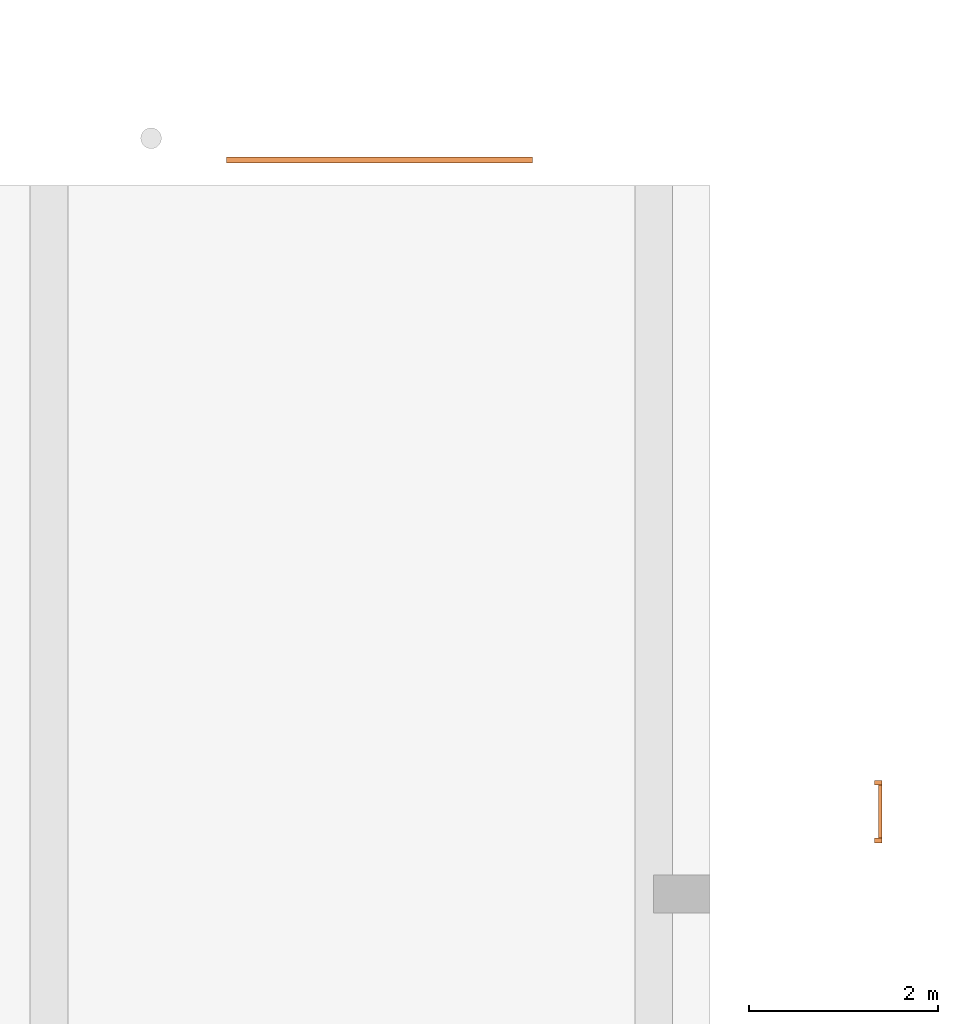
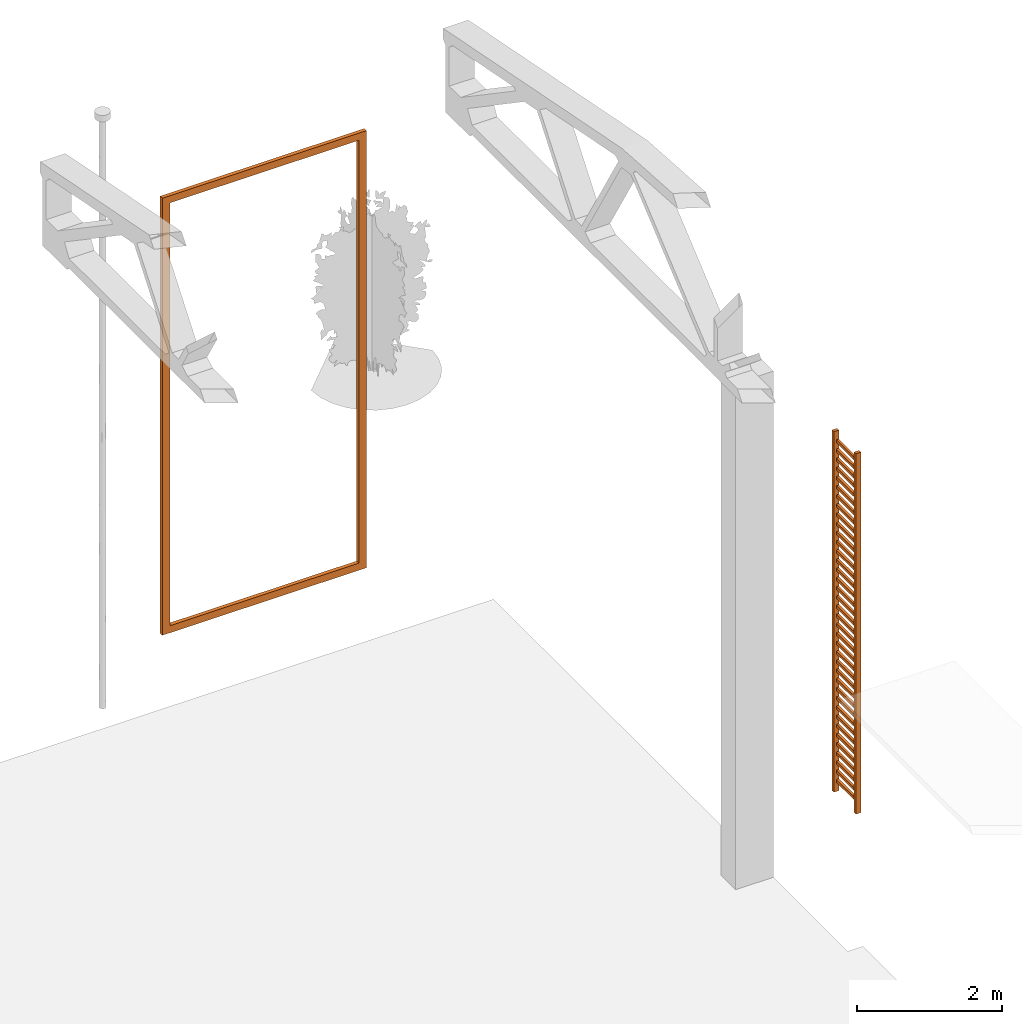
# One storey, part 14 of 14: 2 proxies.
"""IFC2X3 building model written with IfcOpenShell, lengths in millimetres."""

import ifcopenshell
import ifcopenshell.guid

model = None  # the IFC model being written
_history = None  # IfcOwnerHistory: only IFC2X3 demands one
_inside = {}  # id of a spatial element -> (the spatial element, [elements in it])
_under = {}  # id of a project, library or spatial element -> (it, [spatial elements below it])
_declared = {}  # id of a project -> (the project, [libraries it declares])
_typed = {}  # id of a type object -> (the type object, [elements of that type])
_made_of = {}  # id of a material, layer set ... -> (it, [elements and type objects made of it])


def new_model(schema):
    """Start an empty IFC model of exactly this schema.

    Asked for "IFC4X3", IfcOpenShell would pick the latest addendum, in which some entities
    have other attributes; the version numbers below select the first issue.
    IFC2X3 requires an IfcOwnerHistory on every rooted entity: one is made here for all.
    """
    global model, _history
    if schema == "IFC4X3":
        model = ifcopenshell.file(schema_version=(4, 3, 0, 0))
    else:
        model = ifcopenshell.file(schema=schema)
    _inside.clear()
    _under.clear()
    _declared.clear()
    _typed.clear()
    _made_of.clear()
    _history = None
    if model.schema == "IFC2X3":
        org = make("IfcOrganization", Name="unknown")
        user = make(
            "IfcPersonAndOrganization",
            ThePerson=make("IfcPerson", FamilyName="unknown"),
            TheOrganization=org,
        )
        app = make(
            "IfcApplication",
            ApplicationDeveloper=org,
            Version="unknown",
            ApplicationFullName="unknown",
            ApplicationIdentifier="unknown",
        )
        _history = make(
            "IfcOwnerHistory",
            OwningUser=user,
            OwningApplication=app,
            ChangeAction="ADDED",
            CreationDate=0,
        )
    return model


def make(cls, **values):
    """One entity of the class cls with the attributes given. An attribute that is None is left unset."""
    return model.create_entity(
        cls, **{name: value for name, value in values.items() if value is not None}
    )


def entity(cls, *values):
    """Any entity or typed value of the class cls, its attributes in the order of the schema. None: left unset."""
    e = model.create_entity(cls)
    for i, value in enumerate(values):
        if value is not None:
            e[i] = value
    return e


def rooted(cls, **values):
    """An entity with a GlobalId (a new one), such as an element, a storey or a relation."""
    return make(cls, GlobalId=ifcopenshell.guid.new(), OwnerHistory=_history, **values)


def si_unit(unit_type, name, prefix=None):
    """IfcSIUnit, for example si_unit("LENGTHUNIT", "METRE", prefix="MILLI")."""
    return make("IfcSIUnit", UnitType=unit_type, Prefix=prefix, Name=name)


def converted_unit(unit_type, name, factor, base, dimensions=None, offset=None):
    """IfcConversionBasedUnit, such as the inch: factor (a typed value) times the base unit."""
    return make(
        "IfcConversionBasedUnit"
        if offset is None
        else "IfcConversionBasedUnitWithOffset",
        ConversionOffset=offset,
        Dimensions=None
        if dimensions is None
        else entity("IfcDimensionalExponents", *dimensions),
        UnitType=unit_type,
        Name=name,
        ConversionFactor=make(
            "IfcMeasureWithUnit", ValueComponent=factor, UnitComponent=base
        ),
    )


def derived_unit(unit_type, elements):
    """IfcDerivedUnit: a product of units, each with its exponent."""
    return make(
        "IfcDerivedUnit",
        Elements=[
            make("IfcDerivedUnitElement", Unit=unit, Exponent=power)
            for unit, power in elements
        ],
        UnitType=unit_type,
    )


def assignment(units):
    """IfcUnitAssignment: the units of a project."""
    return None if units is None else make("IfcUnitAssignment", Units=units)


def point(xyz):
    """IfcCartesianPoint."""
    return None if xyz is None else make("IfcCartesianPoint", Coordinates=xyz)


def direction(xyz):
    """IfcDirection."""
    return None if xyz is None else make("IfcDirection", DirectionRatios=xyz)


def frame(location, z_axis=None, x_axis=None):
    """IfcAxis2Placement3D, a coordinate frame: its origin and axes. An axis left out is left unset."""
    return make(
        "IfcAxis2Placement3D",
        Location=point(location),
        Axis=direction(z_axis),
        RefDirection=direction(x_axis),
    )


def frame_2d(location, x_axis=None):
    """IfcAxis2Placement2D, a coordinate frame in the plane: its origin and x axis."""
    return make(
        "IfcAxis2Placement2D", Location=point(location), RefDirection=direction(x_axis)
    )


def origin():
    """The frame at (0, 0, 0) with its axes left unset."""
    return frame((0.0, 0.0, 0.0))


def origin_2d_with_axis():
    """The frame at (0, 0) in the plane with the x axis (1, 0) written out."""
    return frame_2d((0.0, 0.0), x_axis=(1.0, 0.0))


def place(relative_to, where):
    """IfcLocalPlacement: puts the frame where relative to a parent placement (None: the world)."""
    return make(
        "IfcLocalPlacement", PlacementRelTo=relative_to, RelativePlacement=where
    )


def context(
    kind, dimensions, precision=None, world=None, true_north=None, identifier=None
):
    """IfcGeometricRepresentationContext, for example the 3D "Model" context."""
    return make(
        "IfcGeometricRepresentationContext",
        ContextIdentifier=identifier,
        ContextType=kind,
        CoordinateSpaceDimension=dimensions,
        Precision=precision,
        WorldCoordinateSystem=world,
        TrueNorth=true_north,
    )


def subcontext(parent, identifier, kind, view, scale=None):
    """IfcGeometricRepresentationSubContext, for example "Body" below "Model"."""
    return make(
        "IfcGeometricRepresentationSubContext",
        ContextIdentifier=identifier,
        ContextType=kind,
        ParentContext=parent,
        TargetScale=scale,
        TargetView=view,
    )


def project(units=None, contexts=None):
    """IfcProject with its units and contexts."""
    return rooted(
        "IfcProject",
        Name="project",
        RepresentationContexts=contexts,
        UnitsInContext=assignment(units),
    )


def spatial(cls, under=None, at=None, **own):
    """A site, building, storey or space (cls), placed at a placement, below another one or the project."""
    s = rooted(cls, ObjectPlacement=at, **own)
    if under is not None:
        _under.setdefault(under.id(), (under, []))[1].append(s)
    return s


def polyline(points):
    """IfcPolyline through the points."""
    return make("IfcPolyline", Points=[point(p) for p in points])


def profile(cls, at=None, kind="AREA", **sizes):
    """A parametric profile (cls). Its sizes go by their IFC names, for example OverallWidth=200.0."""
    return make(cls, ProfileType=kind, Position=at, **sizes)


def rectangle(**sizes):
    """IfcRectangleProfileDef."""
    return profile("IfcRectangleProfileDef", **sizes)


def outline(outer, holes=None, kind="AREA"):
    """IfcArbitraryClosedProfileDef: a profile drawn as a closed curve; with holes, ...WithVoids."""
    if holes is None:
        return make("IfcArbitraryClosedProfileDef", ProfileType=kind, OuterCurve=outer)
    return make(
        "IfcArbitraryProfileDefWithVoids",
        ProfileType=kind,
        OuterCurve=outer,
        InnerCurves=holes,
    )


def extrude(swept, where, along, depth):
    """IfcExtrudedAreaSolid: the profile swept, set in the frame where, extruded along a direction by depth."""
    return make(
        "IfcExtrudedAreaSolid",
        SweptArea=swept,
        Position=where,
        ExtrudedDirection=direction(along),
        Depth=depth,
    )


def shape(context_of_items, identifier, shape_type, items):
    """IfcShapeRepresentation: the items that make up one representation, for example the "Body"."""
    return make(
        "IfcShapeRepresentation",
        ContextOfItems=context_of_items,
        RepresentationIdentifier=identifier,
        RepresentationType=shape_type,
        Items=items,
    )


def source(mapping_origin, context_of_items, identifier, shape_type, items):
    """IfcRepresentationMap: a shape defined once, which mapped items show again and again."""
    return make(
        "IfcRepresentationMap",
        MappingOrigin=mapping_origin,
        MappedRepresentation=shape(context_of_items, identifier, shape_type, items),
    )


def transform(
    local_origin,
    x_axis=None,
    y_axis=None,
    z_axis=None,
    scale=None,
    scale2=None,
    scale3=None,
    uniform=True,
):
    """IfcCartesianTransformationOperator3D, or its non-uniform kind. x_axis, y_axis, z_axis: its Axis1, 2, 3."""
    if uniform:
        return make(
            "IfcCartesianTransformationOperator3D",
            Axis1=direction(x_axis),
            Axis2=direction(y_axis),
            LocalOrigin=point(local_origin),
            Scale=scale,
            Axis3=direction(z_axis),
        )
    return make(
        "IfcCartesianTransformationOperator3DnonUniform",
        Axis1=direction(x_axis),
        Axis2=direction(y_axis),
        LocalOrigin=point(local_origin),
        Scale=scale,
        Axis3=direction(z_axis),
        Scale2=scale2,
        Scale3=scale3,
    )


def mapped(mapping_source, mapping_target):
    """IfcMappedItem: shows the shape of a source again, moved by a transform."""
    return make(
        "IfcMappedItem", MappingSource=mapping_source, MappingTarget=mapping_target
    )


def material(Name=None, Category=None):
    """IfcMaterial."""
    return make("IfcMaterial", Name=Name, Category=Category)


def made_of(thing, what):
    """Note that an element or type object is made of a material, layer set ...; save() writes the relation."""
    if what is not None:
        _made_of.setdefault(what.id(), (what, []))[1].append(thing)
    return thing


def type_object(cls, material=None, **own):
    """A type object (cls), such as IfcWallType, which elements share."""
    return made_of(rooted(cls, **own), material)


def type_shapes(of_type, sources):
    """Give a type object the sources (RepresentationMaps) that its elements show as mapped items."""
    of_type.RepresentationMaps = sources


def element(
    cls,
    number,
    at=None,
    inside=None,
    cuts=None,
    type_object=None,
    material=None,
    context=None,
    identifier="Body",
    shape_type=None,
    held_by="IfcProductDefinitionShape",
    body=None,
    shapes=None,
    **own,
):
    """One element of the class cls, such as IfcWall. Its Tag is "e" and its number.

    at: its placement. inside: the storey or other place that contains it. cuts: it is an
    opening in that element (IfcRelVoidsElement). A single representation is given by context,
    identifier, shape_type and body (its items); several are given by shapes. held_by: the class
    of the entity that holds the representations. save() writes the other relations.
    """
    e = rooted(cls, Tag="e%d" % number, ObjectPlacement=at, **own)
    if body is not None:
        shapes = [shape(context, identifier, shape_type, body)]
    if shapes is not None:
        e.Representation = make(held_by, Representations=shapes)
    if inside is not None:
        _inside.setdefault(inside.id(), (inside, []))[1].append(e)
    if cuts is not None:
        rooted(
            "IfcRelVoidsElement", RelatingBuildingElement=cuts, RelatedOpeningElement=e
        )
    if type_object is not None:
        _typed.setdefault(type_object.id(), (type_object, []))[1].append(e)
    return made_of(e, material)


def aggregate(whole, parts):
    """IfcRelAggregates: a whole, such as a stair, and the parts it consists of."""
    return rooted("IfcRelAggregates", RelatingObject=whole, RelatedObjects=parts)


def save(model, path):
    """Write the relations noted so far, then the file.

    IfcRelAggregates (storeys below a building ...), IfcRelContainedInSpatialStructure (elements
    in a storey), IfcRelDefinesByType, IfcRelAssociatesMaterial and IfcRelDeclares: one each for
    every whole, place, type object, material and project.
    """
    for whole, parts in _under.values():
        aggregate(whole, parts)
    for where, things in _inside.values():
        rooted(
            "IfcRelContainedInSpatialStructure",
            RelatedElements=things,
            RelatingStructure=where,
        )
    for kind, things in _typed.values():
        rooted("IfcRelDefinesByType", RelatedObjects=things, RelatingType=kind)
    for what, things in _made_of.values():
        rooted("IfcRelAssociatesMaterial", RelatedObjects=things, RelatingMaterial=what)
    for by, libraries in _declared.values():
        rooted("IfcRelDeclares", RelatingContext=by, RelatedDefinitions=libraries)
    model.write(path)


model = new_model("IFC2X3")

# Units and contexts
model_context = context("Model", 3, precision=0.01, world=origin(), true_north=direction((6.12303176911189e-17, 1.0)))
body_context = subcontext(model_context, "Body", "Model", "MODEL_VIEW")
ifc_project = project(units=[si_unit("LENGTHUNIT", "METRE", prefix="MILLI"), si_unit("AREAUNIT", "SQUARE_METRE"), si_unit("VOLUMEUNIT", "CUBIC_METRE"), converted_unit("PLANEANGLEUNIT", "DEGREE", entity("IfcRatioMeasure", 0.0174532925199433), si_unit("PLANEANGLEUNIT", "RADIAN"), dimensions=[0, 0, 0, 0, 0, 0, 0]), si_unit("MASSUNIT", "GRAM", prefix="KILO"), derived_unit("MASSDENSITYUNIT", [(si_unit("MASSUNIT", "GRAM", prefix="KILO"), 1), (si_unit("LENGTHUNIT", "METRE"), -3)]), si_unit("TIMEUNIT", "SECOND"), si_unit("FREQUENCYUNIT", "HERTZ"), si_unit("THERMODYNAMICTEMPERATUREUNIT", "DEGREE_CELSIUS"), derived_unit("THERMALTRANSMITTANCEUNIT", [(si_unit("MASSUNIT", "GRAM", prefix="KILO"), 1), (si_unit("THERMODYNAMICTEMPERATUREUNIT", "KELVIN"), -1), (si_unit("TIMEUNIT", "SECOND"), -3)]), derived_unit("VOLUMETRICFLOWRATEUNIT", [(si_unit("LENGTHUNIT", "METRE"), 3), (si_unit("TIMEUNIT", "SECOND"), -1)]), si_unit("ELECTRICCURRENTUNIT", "AMPERE"), si_unit("ELECTRICVOLTAGEUNIT", "VOLT"), si_unit("POWERUNIT", "WATT"), si_unit("FORCEUNIT", "NEWTON", prefix="KILO"), si_unit("ILLUMINANCEUNIT", "LUX"), si_unit("LUMINOUSFLUXUNIT", "LUMEN"), si_unit("LUMINOUSINTENSITYUNIT", "CANDELA"), derived_unit("USERDEFINED", [(si_unit("MASSUNIT", "GRAM", prefix="KILO"), -1), (si_unit("LENGTHUNIT", "METRE"), -2), (si_unit("TIMEUNIT", "SECOND"), 3), (si_unit("LUMINOUSFLUXUNIT", "LUMEN"), 1)]), derived_unit("LINEARVELOCITYUNIT", [(si_unit("LENGTHUNIT", "METRE"), 1), (si_unit("TIMEUNIT", "SECOND"), -1)]), si_unit("PRESSUREUNIT", "PASCAL"), derived_unit("USERDEFINED", [(si_unit("LENGTHUNIT", "METRE"), -2), (si_unit("MASSUNIT", "GRAM", prefix="KILO"), 1), (si_unit("TIMEUNIT", "SECOND"), -2)])], contexts=[model_context])

# Site, building, storey
site_placement = place(None, origin())
site = spatial("IfcSite", under=ifc_project, at=site_placement, Name="表面", CompositionType="ELEMENT")
building_placement = place(site_placement, origin())
building = spatial("IfcBuilding", under=site, at=building_placement, CompositionType="ELEMENT")
storey_placement = place(building_placement, origin())
storey = spatial("IfcBuildingStorey", under=building, at=storey_placement, Name="±0.000", CompositionType="ELEMENT", Elevation=0.0)

# Proxies
ifc_material_1 = material(Name="砖石建筑 - 瓷砖")
building_element_proxy_type_1 = type_object("IfcBuildingElementProxyType", Name="3mX7100", PredefinedType="NOTDEFINED", material=ifc_material_1)
shared_shape_1 = source(origin(), body_context, "Body", "SweptSolid", [
    extrude(outline(polyline([(-1620.0, -3670.0), (1620.0, -3670.0), (1620.0, 3670.0), (-1620.0, 3670.0), (-1620.0, -3670.0)]), holes=[polyline([(-1500.0, -3550.0), (-1500.0, 3550.0), (1500.0, 3550.0), (1500.0, -3550.0), (-1500.0, -3550.0)])]), frame((125.0, 120.0, 4029.66314124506), z_axis=(0.0, 1.0, 0.0), x_axis=(1.0, 0.0, 0.0)), (0.0, 0.0, 1.0), 60.0),
])
type_shapes(building_element_proxy_type_1, [shared_shape_1])
proxy_1_placement = place(storey_placement, frame((6346.2012185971, 15729.6974073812, 680.336858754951)))
element("IfcBuildingElementProxy", 1, at=proxy_1_placement, inside=storey, type_object=building_element_proxy_type_1, material=ifc_material_1, Name="基于墙的墙面装饰:3mX7100", ObjectType="3mX7100", context=body_context, shape_type="MappedRepresentation", body=[
    mapped(shared_shape_1, transform((0.0, 0.0, 0.0), scale=1.0)),
])
ifc_material_2 = material(Name="彩钢")
building_element_proxy_type_2 = type_object("IfcBuildingElementProxyType", Name="直梯 3", PredefinedType="NOTDEFINED", material=ifc_material_2)
shared_shape_2 = source(origin(), body_context, "Body", "SweptSolid", [
    extrude(rectangle(XDim=560.0, YDim=38.1000000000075, at=origin_2d_with_axis()), frame((-10.0, 19.050000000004, 5699.62285916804), z_axis=(0.0, 0.0, 1.0), x_axis=(-1.0, 0.0, 0.0)), (0.0, 0.0, 1.0), 49.9999999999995),
    extrude(rectangle(XDim=560.0, YDim=38.1000000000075, at=origin_2d_with_axis()), frame((-10.0, 19.050000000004, 5545.4666686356), z_axis=(0.0, 0.0, 1.0), x_axis=(-1.0, 0.0, 0.0)), (0.0, 0.0, 1.0), 49.9999999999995),
    extrude(rectangle(XDim=560.0, YDim=38.1000000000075, at=origin_2d_with_axis()), frame((-10.0, 19.050000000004, 5391.31047810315), z_axis=(0.0, 0.0, 1.0), x_axis=(-1.0, 0.0, 0.0)), (0.0, 0.0, 1.0), 49.9999999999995),
    extrude(rectangle(XDim=560.0, YDim=38.1000000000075, at=origin_2d_with_axis()), frame((-10.0, 19.050000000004, 5237.15428757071), z_axis=(0.0, 0.0, 1.0), x_axis=(-1.0, 0.0, 0.0)), (0.0, 0.0, 1.0), 49.9999999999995),
    extrude(rectangle(XDim=560.0, YDim=38.1000000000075, at=origin_2d_with_axis()), frame((-10.0, 19.050000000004, 5082.99809703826), z_axis=(0.0, 0.0, 1.0), x_axis=(-1.0, 0.0, 0.0)), (0.0, 0.0, 1.0), 49.9999999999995),
    extrude(rectangle(XDim=560.0, YDim=38.1000000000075, at=origin_2d_with_axis()), frame((-10.0, 19.050000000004, 4928.84190650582), z_axis=(0.0, 0.0, 1.0), x_axis=(-1.0, 0.0, 0.0)), (0.0, 0.0, 1.0), 49.9999999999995),
    extrude(rectangle(XDim=560.0, YDim=38.1000000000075, at=origin_2d_with_axis()), frame((-10.0, 19.050000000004, 4774.68571597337), z_axis=(0.0, 0.0, 1.0), x_axis=(-1.0, 0.0, 0.0)), (0.0, 0.0, 1.0), 49.9999999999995),
    extrude(rectangle(XDim=560.0, YDim=38.1000000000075, at=origin_2d_with_axis()), frame((-10.0, 19.050000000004, 4620.52952544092), z_axis=(0.0, 0.0, 1.0), x_axis=(-1.0, 0.0, 0.0)), (0.0, 0.0, 1.0), 49.9999999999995),
    extrude(rectangle(XDim=560.0, YDim=38.1000000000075, at=origin_2d_with_axis()), frame((-10.0, 19.050000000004, 4466.37333490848), z_axis=(0.0, 0.0, 1.0), x_axis=(-1.0, 0.0, 0.0)), (0.0, 0.0, 1.0), 49.9999999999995),
    extrude(rectangle(XDim=560.0, YDim=38.1000000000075, at=origin_2d_with_axis()), frame((-10.0, 19.050000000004, 4312.21714437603), z_axis=(0.0, 0.0, 1.0), x_axis=(-1.0, 0.0, 0.0)), (0.0, 0.0, 1.0), 49.9999999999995),
    extrude(rectangle(XDim=560.0, YDim=38.1000000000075, at=origin_2d_with_axis()), frame((-10.0, 19.050000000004, 4158.06095384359), z_axis=(0.0, 0.0, 1.0), x_axis=(-1.0, 0.0, 0.0)), (0.0, 0.0, 1.0), 49.9999999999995),
    extrude(rectangle(XDim=560.0, YDim=38.1000000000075, at=origin_2d_with_axis()), frame((-10.0, 19.050000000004, 4003.90476331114), z_axis=(0.0, 0.0, 1.0), x_axis=(-1.0, 0.0, 0.0)), (0.0, 0.0, 1.0), 49.9999999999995),
    extrude(rectangle(XDim=560.0, YDim=38.1000000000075, at=origin_2d_with_axis()), frame((-10.0, 19.050000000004, 3849.7485727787), z_axis=(0.0, 0.0, 1.0), x_axis=(-1.0, 0.0, 0.0)), (0.0, 0.0, 1.0), 49.9999999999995),
    extrude(rectangle(XDim=560.0, YDim=38.1000000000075, at=origin_2d_with_axis()), frame((-10.0, 19.050000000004, 3695.59238224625), z_axis=(0.0, 0.0, 1.0), x_axis=(-1.0, 0.0, 0.0)), (0.0, 0.0, 1.0), 49.9999999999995),
    extrude(rectangle(XDim=560.0, YDim=38.1000000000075, at=origin_2d_with_axis()), frame((-10.0, 19.050000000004, 3541.43619171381), z_axis=(0.0, 0.0, 1.0), x_axis=(-1.0, 0.0, 0.0)), (0.0, 0.0, 1.0), 49.9999999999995),
    extrude(rectangle(XDim=560.0, YDim=38.1000000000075, at=origin_2d_with_axis()), frame((-10.0, 19.050000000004, 3387.28000118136), z_axis=(0.0, 0.0, 1.0), x_axis=(-1.0, 0.0, 0.0)), (0.0, 0.0, 1.0), 49.9999999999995),
    extrude(rectangle(XDim=560.0, YDim=38.1000000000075, at=origin_2d_with_axis()), frame((-10.0, 19.050000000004, 3233.12381064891), z_axis=(0.0, 0.0, 1.0), x_axis=(-1.0, 0.0, 0.0)), (0.0, 0.0, 1.0), 49.9999999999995),
    extrude(rectangle(XDim=560.0, YDim=38.1000000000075, at=origin_2d_with_axis()), frame((-10.0, 19.050000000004, 3078.96762011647), z_axis=(0.0, 0.0, 1.0), x_axis=(-1.0, 0.0, 0.0)), (0.0, 0.0, 1.0), 49.9999999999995),
    extrude(rectangle(XDim=560.0, YDim=38.1000000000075, at=origin_2d_with_axis()), frame((-10.0, 19.050000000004, 2924.81142958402), z_axis=(0.0, 0.0, 1.0), x_axis=(-1.0, 0.0, 0.0)), (0.0, 0.0, 1.0), 49.9999999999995),
    extrude(rectangle(XDim=560.0, YDim=38.1000000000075, at=origin_2d_with_axis()), frame((-10.0, 19.050000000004, 2770.65523905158), z_axis=(0.0, 0.0, 1.0), x_axis=(-1.0, 0.0, 0.0)), (0.0, 0.0, 1.0), 49.9999999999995),
    extrude(rectangle(XDim=560.0, YDim=38.1000000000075, at=origin_2d_with_axis()), frame((-10.0, 19.050000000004, 2616.49904851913), z_axis=(0.0, 0.0, 1.0), x_axis=(-1.0, 0.0, 0.0)), (0.0, 0.0, 1.0), 49.9999999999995),
    extrude(rectangle(XDim=560.0, YDim=38.1000000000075, at=origin_2d_with_axis()), frame((-10.0, 19.050000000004, 2462.34285798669), z_axis=(0.0, 0.0, 1.0), x_axis=(-1.0, 0.0, 0.0)), (0.0, 0.0, 1.0), 49.9999999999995),
    extrude(rectangle(XDim=560.0, YDim=38.1000000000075, at=origin_2d_with_axis()), frame((-10.0, 19.050000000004, 2308.18666745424), z_axis=(0.0, 0.0, 1.0), x_axis=(-1.0, 0.0, 0.0)), (0.0, 0.0, 1.0), 49.9999999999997),
    extrude(rectangle(XDim=560.0, YDim=38.1000000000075, at=origin_2d_with_axis()), frame((-10.0, 19.050000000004, 2154.0304769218), z_axis=(0.0, 0.0, 1.0), x_axis=(-1.0, 0.0, 0.0)), (0.0, 0.0, 1.0), 49.9999999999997),
    extrude(rectangle(XDim=560.0, YDim=38.1000000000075, at=origin_2d_with_axis()), frame((-10.0, 19.050000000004, 1999.87428638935), z_axis=(0.0, 0.0, 1.0), x_axis=(-1.0, 0.0, 0.0)), (0.0, 0.0, 1.0), 49.9999999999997),
    extrude(rectangle(XDim=560.0, YDim=38.1000000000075, at=origin_2d_with_axis()), frame((-10.0, 19.050000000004, 1845.7180958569), z_axis=(0.0, 0.0, 1.0), x_axis=(-1.0, 0.0, 0.0)), (0.0, 0.0, 1.0), 49.9999999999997),
    extrude(rectangle(XDim=560.0, YDim=38.1000000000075, at=origin_2d_with_axis()), frame((-10.0, 19.050000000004, 1691.56190532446), z_axis=(0.0, 0.0, 1.0), x_axis=(-1.0, 0.0, 0.0)), (0.0, 0.0, 1.0), 49.9999999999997),
    extrude(rectangle(XDim=560.0, YDim=38.1000000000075, at=origin_2d_with_axis()), frame((-10.0, 19.050000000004, 1537.40571479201), z_axis=(0.0, 0.0, 1.0), x_axis=(-1.0, 0.0, 0.0)), (0.0, 0.0, 1.0), 49.9999999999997),
    extrude(rectangle(XDim=560.0, YDim=38.1000000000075, at=origin_2d_with_axis()), frame((-10.0, 19.050000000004, 1383.24952425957), z_axis=(0.0, 0.0, 1.0), x_axis=(-1.0, 0.0, 0.0)), (0.0, 0.0, 1.0), 49.9999999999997),
    extrude(rectangle(XDim=560.0, YDim=38.1000000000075, at=origin_2d_with_axis()), frame((-10.0, 19.050000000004, 1229.09333372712), z_axis=(0.0, 0.0, 1.0), x_axis=(-1.0, 0.0, 0.0)), (0.0, 0.0, 1.0), 49.9999999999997),
    extrude(rectangle(XDim=560.0, YDim=38.1000000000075, at=origin_2d_with_axis()), frame((-10.0, 19.050000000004, 1074.93714319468), z_axis=(0.0, 0.0, 1.0), x_axis=(-1.0, 0.0, 0.0)), (0.0, 0.0, 1.0), 49.9999999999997),
    extrude(rectangle(XDim=560.0, YDim=38.1000000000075, at=origin_2d_with_axis()), frame((-10.0, 19.050000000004, 920.78095266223), z_axis=(0.0, 0.0, 1.0), x_axis=(-1.0, 0.0, 0.0)), (0.0, 0.0, 1.0), 49.9999999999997),
    extrude(rectangle(XDim=560.0, YDim=38.1000000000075, at=origin_2d_with_axis()), frame((-10.0, 19.050000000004, 766.624762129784), z_axis=(0.0, 0.0, 1.0), x_axis=(-1.0, 0.0, 0.0)), (0.0, 0.0, 1.0), 49.9999999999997),
    extrude(rectangle(XDim=560.0, YDim=38.1000000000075, at=origin_2d_with_axis()), frame((-10.0, 19.050000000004, 612.468571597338), z_axis=(0.0, 0.0, 1.0), x_axis=(-1.0, 0.0, 0.0)), (0.0, 0.0, 1.0), 49.9999999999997),
    extrude(rectangle(XDim=560.0, YDim=38.1000000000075, at=origin_2d_with_axis()), frame((-10.0, 19.050000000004, 458.312381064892), z_axis=(0.0, 0.0, 1.0), x_axis=(-1.0, 0.0, 0.0)), (0.0, 0.0, 1.0), 49.9999999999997),
    extrude(rectangle(XDim=560.0, YDim=38.1000000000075, at=origin_2d_with_axis()), frame((-10.0, 19.050000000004, 304.156190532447), z_axis=(0.0, 0.0, 1.0), x_axis=(-1.0, 0.0, 0.0)), (0.0, 0.0, 1.0), 49.9999999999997),
    extrude(rectangle(XDim=560.0, YDim=38.1000000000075, at=origin_2d_with_axis()), frame((-10.0, 19.050000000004, 5853.77904970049), z_axis=(0.0, 0.0, 1.0), x_axis=(-1.0, 0.0, 0.0)), (0.0, 0.0, 1.0), 49.9999999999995),
    extrude(rectangle(XDim=560.0, YDim=38.1000000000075, at=origin_2d_with_axis()), frame((-10.0, 19.050000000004, 150.0), z_axis=(0.0, 0.0, 1.0), x_axis=(-1.0, 0.0, 0.0)), (0.0, 0.0, 1.0), 49.9999999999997),
    extrude(rectangle(XDim=80.0, YDim=49.9999999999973, at=origin_2d_with_axis()), frame((295.0, 40.0, 0.0), z_axis=(0.0, 0.0, 1.0), x_axis=(0.0, 1.0, 0.0)), (0.0, 0.0, 1.0), 6053.77904970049),
    extrude(rectangle(XDim=80.0, YDim=50.0000000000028, at=origin_2d_with_axis()), frame((-315.0, 40.0, 0.0), z_axis=(0.0, 0.0, 1.0), x_axis=(0.0, 1.0, 0.0)), (0.0, 0.0, 1.0), 6053.77904970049),
])
type_shapes(building_element_proxy_type_2, [shared_shape_2])
proxy_2_placement = place(storey_placement, frame((11791.201218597, 8989.69740738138, 0.0), z_axis=(0.0, 0.0, 1.0), x_axis=(0.0, 1.0, 0.0)))
element("IfcBuildingElementProxy", 2, at=proxy_2_placement, inside=storey, type_object=building_element_proxy_type_2, material=ifc_material_2, Name="直梯:直梯 3", ObjectType="直梯 3", context=body_context, shape_type="MappedRepresentation", body=[
    mapped(shared_shape_2, transform((0.0, 0.0, 0.0), scale=1.0)),
])

save(model, "model.ifc")
